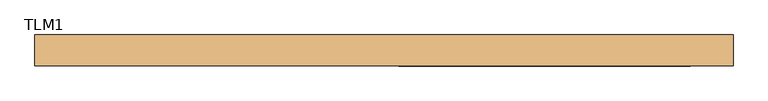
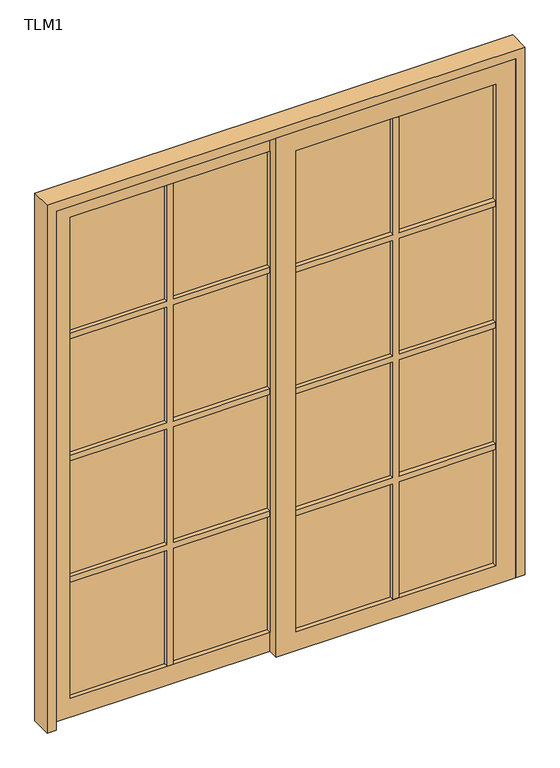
"""IFC4 building model written with IfcOpenShell, lengths in millimetres: door geometry, 双扇推拉门1 : TLM1."""

import ifcopenshell
import ifcopenshell.guid

model = None  # the IFC model being written
_history = None  # IfcOwnerHistory: only IFC2X3 demands one
_inside = {}  # id of a spatial element -> (the spatial element, [elements in it])
_under = {}  # id of a project, library or spatial element -> (it, [spatial elements below it])
_declared = {}  # id of a project -> (the project, [libraries it declares])
_typed = {}  # id of a type object -> (the type object, [elements of that type])
_made_of = {}  # id of a material, layer set ... -> (it, [elements and type objects made of it])


def new_model(schema):
    """Start an empty IFC model of exactly this schema.

    Asked for "IFC4X3", IfcOpenShell would pick the latest addendum, in which some entities
    have other attributes; the version numbers below select the first issue.
    IFC2X3 requires an IfcOwnerHistory on every rooted entity: one is made here for all.
    """
    global model, _history
    if schema == "IFC4X3":
        model = ifcopenshell.file(schema_version=(4, 3, 0, 0))
    else:
        model = ifcopenshell.file(schema=schema)
    _inside.clear()
    _under.clear()
    _declared.clear()
    _typed.clear()
    _made_of.clear()
    _history = None
    if model.schema == "IFC2X3":
        org = make("IfcOrganization", Name="unknown")
        user = make(
            "IfcPersonAndOrganization",
            ThePerson=make("IfcPerson", FamilyName="unknown"),
            TheOrganization=org,
        )
        app = make(
            "IfcApplication",
            ApplicationDeveloper=org,
            Version="unknown",
            ApplicationFullName="unknown",
            ApplicationIdentifier="unknown",
        )
        _history = make(
            "IfcOwnerHistory",
            OwningUser=user,
            OwningApplication=app,
            ChangeAction="ADDED",
            CreationDate=0,
        )
    return model


def make(cls, **values):
    """One entity of the class cls with the attributes given. An attribute that is None is left unset."""
    return model.create_entity(
        cls, **{name: value for name, value in values.items() if value is not None}
    )


def rooted(cls, **values):
    """An entity with a GlobalId (a new one), such as an element, a storey or a relation."""
    return make(cls, GlobalId=ifcopenshell.guid.new(), OwnerHistory=_history, **values)


def si_unit(unit_type, name, prefix=None):
    """IfcSIUnit, for example si_unit("LENGTHUNIT", "METRE", prefix="MILLI")."""
    return make("IfcSIUnit", UnitType=unit_type, Prefix=prefix, Name=name)


def assignment(units):
    """IfcUnitAssignment: the units of a project."""
    return None if units is None else make("IfcUnitAssignment", Units=units)


def point(xyz):
    """IfcCartesianPoint."""
    return None if xyz is None else make("IfcCartesianPoint", Coordinates=xyz)


def direction(xyz):
    """IfcDirection."""
    return None if xyz is None else make("IfcDirection", DirectionRatios=xyz)


def frame(location, z_axis=None, x_axis=None):
    """IfcAxis2Placement3D, a coordinate frame: its origin and axes. An axis left out is left unset."""
    return make(
        "IfcAxis2Placement3D",
        Location=point(location),
        Axis=direction(z_axis),
        RefDirection=direction(x_axis),
    )


def origin():
    """The frame at (0, 0, 0) with its axes left unset."""
    return frame((0.0, 0.0, 0.0))


def place(relative_to, where):
    """IfcLocalPlacement: puts the frame where relative to a parent placement (None: the world)."""
    return make(
        "IfcLocalPlacement", PlacementRelTo=relative_to, RelativePlacement=where
    )


def context(
    kind, dimensions, precision=None, world=None, true_north=None, identifier=None
):
    """IfcGeometricRepresentationContext, for example the 3D "Model" context."""
    return make(
        "IfcGeometricRepresentationContext",
        ContextIdentifier=identifier,
        ContextType=kind,
        CoordinateSpaceDimension=dimensions,
        Precision=precision,
        WorldCoordinateSystem=world,
        TrueNorth=true_north,
    )


def project(units=None, contexts=None):
    """IfcProject with its units and contexts."""
    return rooted(
        "IfcProject",
        Name="project",
        RepresentationContexts=contexts,
        UnitsInContext=assignment(units),
    )


def spatial(cls, under=None, at=None, **own):
    """A site, building, storey or space (cls), placed at a placement, below another one or the project."""
    s = rooted(cls, ObjectPlacement=at, **own)
    if under is not None:
        _under.setdefault(under.id(), (under, []))[1].append(s)
    return s


def polyline(points):
    """IfcPolyline through the points."""
    return make("IfcPolyline", Points=[point(p) for p in points])


def outline(outer, holes=None, kind="AREA"):
    """IfcArbitraryClosedProfileDef: a profile drawn as a closed curve; with holes, ...WithVoids."""
    if holes is None:
        return make("IfcArbitraryClosedProfileDef", ProfileType=kind, OuterCurve=outer)
    return make(
        "IfcArbitraryProfileDefWithVoids",
        ProfileType=kind,
        OuterCurve=outer,
        InnerCurves=holes,
    )


def extrude(swept, where, along, depth):
    """IfcExtrudedAreaSolid: the profile swept, set in the frame where, extruded along a direction by depth."""
    return make(
        "IfcExtrudedAreaSolid",
        SweptArea=swept,
        Position=where,
        ExtrudedDirection=direction(along),
        Depth=depth,
    )


def shape(context_of_items, identifier, shape_type, items):
    """IfcShapeRepresentation: the items that make up one representation, for example the "Body"."""
    return make(
        "IfcShapeRepresentation",
        ContextOfItems=context_of_items,
        RepresentationIdentifier=identifier,
        RepresentationType=shape_type,
        Items=items,
    )


def source(mapping_origin, context_of_items, identifier, shape_type, items):
    """IfcRepresentationMap: a shape defined once, which mapped items show again and again."""
    return make(
        "IfcRepresentationMap",
        MappingOrigin=mapping_origin,
        MappedRepresentation=shape(context_of_items, identifier, shape_type, items),
    )


def transform(
    local_origin,
    x_axis=None,
    y_axis=None,
    z_axis=None,
    scale=None,
    scale2=None,
    scale3=None,
    uniform=True,
):
    """IfcCartesianTransformationOperator3D, or its non-uniform kind. x_axis, y_axis, z_axis: its Axis1, 2, 3."""
    if uniform:
        return make(
            "IfcCartesianTransformationOperator3D",
            Axis1=direction(x_axis),
            Axis2=direction(y_axis),
            LocalOrigin=point(local_origin),
            Scale=scale,
            Axis3=direction(z_axis),
        )
    return make(
        "IfcCartesianTransformationOperator3DnonUniform",
        Axis1=direction(x_axis),
        Axis2=direction(y_axis),
        LocalOrigin=point(local_origin),
        Scale=scale,
        Axis3=direction(z_axis),
        Scale2=scale2,
        Scale3=scale3,
    )


def mapped(mapping_source, mapping_target):
    """IfcMappedItem: shows the shape of a source again, moved by a transform."""
    return make(
        "IfcMappedItem", MappingSource=mapping_source, MappingTarget=mapping_target
    )


def made_of(thing, what):
    """Note that an element or type object is made of a material, layer set ...; save() writes the relation."""
    if what is not None:
        _made_of.setdefault(what.id(), (what, []))[1].append(thing)
    return thing


def element(
    cls,
    number,
    at=None,
    inside=None,
    cuts=None,
    type_object=None,
    material=None,
    context=None,
    identifier="Body",
    shape_type=None,
    held_by="IfcProductDefinitionShape",
    body=None,
    shapes=None,
    **own,
):
    """One element of the class cls, such as IfcWall. Its Tag is "e" and its number.

    at: its placement. inside: the storey or other place that contains it. cuts: it is an
    opening in that element (IfcRelVoidsElement). A single representation is given by context,
    identifier, shape_type and body (its items); several are given by shapes. held_by: the class
    of the entity that holds the representations. save() writes the other relations.
    """
    e = rooted(cls, Tag="e%d" % number, ObjectPlacement=at, **own)
    if body is not None:
        shapes = [shape(context, identifier, shape_type, body)]
    if shapes is not None:
        e.Representation = make(held_by, Representations=shapes)
    if inside is not None:
        _inside.setdefault(inside.id(), (inside, []))[1].append(e)
    if cuts is not None:
        rooted(
            "IfcRelVoidsElement", RelatingBuildingElement=cuts, RelatedOpeningElement=e
        )
    if type_object is not None:
        _typed.setdefault(type_object.id(), (type_object, []))[1].append(e)
    return made_of(e, material)


def aggregate(whole, parts):
    """IfcRelAggregates: a whole, such as a stair, and the parts it consists of."""
    return rooted("IfcRelAggregates", RelatingObject=whole, RelatedObjects=parts)


def save(model, path):
    """Write the relations noted so far, then the file.

    IfcRelAggregates (storeys below a building ...), IfcRelContainedInSpatialStructure (elements
    in a storey), IfcRelDefinesByType, IfcRelAssociatesMaterial and IfcRelDeclares: one each for
    every whole, place, type object, material and project.
    """
    for whole, parts in _under.values():
        aggregate(whole, parts)
    for where, things in _inside.values():
        rooted(
            "IfcRelContainedInSpatialStructure",
            RelatedElements=things,
            RelatingStructure=where,
        )
    for kind, things in _typed.values():
        rooted("IfcRelDefinesByType", RelatedObjects=things, RelatingType=kind)
    for what, things in _made_of.values():
        rooted("IfcRelAssociatesMaterial", RelatedObjects=things, RelatingMaterial=what)
    for by, libraries in _declared.values():
        rooted("IfcRelDeclares", RelatingContext=by, RelatedDefinitions=libraries)
    model.write(path)


def tlm1_f57afe13(model_context):
    return source(origin(), model_context, "Body", "SweptSolid", [
        extrude(outline(polyline([(2065.0, -865.0), (0.0, -865.0), (0.0, 37.5), (2065.0, 37.5), (2065.0, -865.0)]), holes=[polyline([(1990.0, -790.0), (1990.0, -37.5), (75.0, -37.5), (75.0, -790.0), (1990.0, -790.0)])]), frame((0.0, 0.0, 0.0), z_axis=(0.0, 1.0, 0.0), x_axis=(0.0, 0.0, 1.0)), (0.0, 0.0, 1.0), 40.0),
        extrude(outline(polyline([(0.0, 865.0), (2065.0, 865.0), (2065.0, -37.5), (0.0, -37.5), (0.0, 865.0)]), holes=[polyline([(1990.0, 790.0), (75.0, 790.0), (75.0, 37.5), (1990.0, 37.5), (1990.0, 790.0)])]), frame((0.0, -40.0, 0.0), z_axis=(0.0, 1.0, 0.0), x_axis=(0.0, 0.0, 1.0)), (0.0, 0.0, 1.0), 40.0),
        extrude(outline(polyline([(790.0, -23.0), (424.75, -23.0), (424.75, -17.0), (790.0, -17.0), (790.0, -23.0)])), frame((0.0, 0.0, 1527.75), z_axis=(0.0, 0.0, 1.0), x_axis=(1.0, 0.0, 0.0)), (0.0, 0.0, 1.0), 462.25),
        extrude(outline(polyline([(402.75, -23.0), (37.5, -23.0), (37.5, -17.0), (402.75, -17.0), (402.75, -23.0)])), frame((0.0, 0.0, 1527.75), z_axis=(0.0, 0.0, 1.0), x_axis=(1.0, 0.0, 0.0)), (0.0, 0.0, 1.0), 462.25),
        extrude(outline(polyline([(790.0, -23.0), (424.75, -23.0), (424.75, -17.0), (790.0, -17.0), (790.0, -23.0)])), frame((0.0, 0.0, 1043.5), z_axis=(0.0, 0.0, 1.0), x_axis=(1.0, 0.0, 0.0)), (0.0, 0.0, 1.0), 462.25),
        extrude(outline(polyline([(402.75, -23.0), (37.5, -23.0), (37.5, -17.0), (402.75, -17.0), (402.75, -23.0)])), frame((0.0, 0.0, 1043.5), z_axis=(0.0, 0.0, 1.0), x_axis=(1.0, 0.0, 0.0)), (0.0, 0.0, 1.0), 462.25),
        extrude(outline(polyline([(790.0, -23.0), (424.75, -23.0), (424.75, -17.0), (790.0, -17.0), (790.0, -23.0)])), frame((0.0, 0.0, 559.25), z_axis=(0.0, 0.0, 1.0), x_axis=(1.0, 0.0, 0.0)), (0.0, 0.0, 1.0), 462.25),
        extrude(outline(polyline([(402.75, -23.0), (37.5, -23.0), (37.5, -17.0), (402.75, -17.0), (402.75, -23.0)])), frame((0.0, 0.0, 559.25), z_axis=(0.0, 0.0, 1.0), x_axis=(1.0, 0.0, 0.0)), (0.0, 0.0, 1.0), 462.25),
        extrude(outline(polyline([(790.0, -23.0), (424.75, -23.0), (424.75, -17.0), (790.0, -17.0), (790.0, -23.0)])), frame((0.0, 0.0, 75.0), z_axis=(0.0, 0.0, 1.0), x_axis=(1.0, 0.0, 0.0)), (0.0, 0.0, 1.0), 462.25),
        extrude(outline(polyline([(402.75, -23.0), (37.5, -23.0), (37.5, -17.0), (402.75, -17.0), (402.75, -23.0)])), frame((0.0, 0.0, 75.0), z_axis=(0.0, 0.0, 1.0), x_axis=(1.0, 0.0, 0.0)), (0.0, 0.0, 1.0), 462.25),
        extrude(outline(polyline([(-402.75, 23.0), (-37.5, 23.0), (-37.5, 17.0), (-402.75, 17.0), (-402.75, 23.0)])), frame((0.0, 0.0, 1527.75), z_axis=(0.0, 0.0, 1.0), x_axis=(1.0, 0.0, 0.0)), (0.0, 0.0, 1.0), 462.25),
        extrude(outline(polyline([(-790.0, 23.0), (-424.75, 23.0), (-424.75, 17.0), (-790.0, 17.0), (-790.0, 23.0)])), frame((0.0, 0.0, 1527.75), z_axis=(0.0, 0.0, 1.0), x_axis=(1.0, 0.0, 0.0)), (0.0, 0.0, 1.0), 462.25),
        extrude(outline(polyline([(-402.75, 23.0), (-37.5, 23.0), (-37.5, 17.0), (-402.75, 17.0), (-402.75, 23.0)])), frame((0.0, 0.0, 1043.5), z_axis=(0.0, 0.0, 1.0), x_axis=(1.0, 0.0, 0.0)), (0.0, 0.0, 1.0), 462.25),
        extrude(outline(polyline([(-790.0, 23.0), (-424.75, 23.0), (-424.75, 17.0), (-790.0, 17.0), (-790.0, 23.0)])), frame((0.0, 0.0, 1043.5), z_axis=(0.0, 0.0, 1.0), x_axis=(1.0, 0.0, 0.0)), (0.0, 0.0, 1.0), 462.25),
        extrude(outline(polyline([(-402.75, 23.0), (-37.5, 23.0), (-37.5, 17.0), (-402.75, 17.0), (-402.75, 23.0)])), frame((0.0, 0.0, 559.25), z_axis=(0.0, 0.0, 1.0), x_axis=(1.0, 0.0, 0.0)), (0.0, 0.0, 1.0), 462.25),
        extrude(outline(polyline([(-790.0, 23.0), (-424.75, 23.0), (-424.75, 17.0), (-790.0, 17.0), (-790.0, 23.0)])), frame((0.0, 0.0, 559.25), z_axis=(0.0, 0.0, 1.0), x_axis=(1.0, 0.0, 0.0)), (0.0, 0.0, 1.0), 462.25),
        extrude(outline(polyline([(-402.75, 23.0), (-37.5, 23.0), (-37.5, 17.0), (-402.75, 17.0), (-402.75, 23.0)])), frame((0.0, 0.0, 75.0), z_axis=(0.0, 0.0, 1.0), x_axis=(1.0, 0.0, 0.0)), (0.0, 0.0, 1.0), 462.25),
        extrude(outline(polyline([(-790.0, 23.0), (-424.75, 23.0), (-424.75, 17.0), (-790.0, 17.0), (-790.0, 23.0)])), frame((0.0, 0.0, 75.0), z_axis=(0.0, 0.0, 1.0), x_axis=(1.0, 0.0, 0.0)), (0.0, 0.0, 1.0), 462.25),
        extrude(outline(polyline([(1527.75, 424.75), (1990.0, 424.75), (1990.0, 402.75), (1527.75, 402.75), (1527.75, 37.5), (1505.75, 37.5), (1505.75, 402.75), (1043.5, 402.75), (1043.5, 37.5), (1021.5, 37.5), (1021.5, 402.75), (559.25, 402.75), (559.25, 37.5), (537.25, 37.5), (537.25, 402.75), (75.0, 402.75), (75.0, 424.75), (537.25, 424.75), (537.25, 790.0), (559.25, 790.0), (559.25, 424.75), (1021.5, 424.75), (1021.5, 790.0), (1043.5, 790.0), (1043.5, 424.75), (1505.75, 424.75), (1505.75, 790.0), (1527.75, 790.0), (1527.75, 424.75)])), frame((0.0, -40.0, 0.0), z_axis=(0.0, 1.0, 0.0), x_axis=(0.0, 0.0, 1.0)), (0.0, 0.0, 1.0), 40.0),
        extrude(outline(polyline([(1527.75, -402.75), (1990.0, -402.75), (1990.0, -424.75), (1527.75, -424.75), (1527.75, -790.0), (1505.75, -790.0), (1505.75, -424.75), (1043.5, -424.75), (1043.5, -790.0), (1021.5, -790.0), (1021.5, -424.75), (559.25, -424.75), (559.25, -790.0), (537.25, -790.0), (537.25, -424.75), (75.0, -424.75), (75.0, -402.75), (537.25, -402.75), (537.25, -37.5), (559.25, -37.5), (559.25, -402.75), (1021.5, -402.75), (1021.5, -37.5), (1043.5, -37.5), (1043.5, -402.75), (1505.75, -402.75), (1505.75, -37.5), (1527.75, -37.5), (1527.75, -402.75)])), frame((0.0, 0.0, 0.0), z_axis=(0.0, 1.0, 0.0), x_axis=(0.0, 0.0, 1.0)), (0.0, 0.0, 1.0), 40.0),
        extrude(outline(polyline([(0.0, 865.0), (0.0, 900.0), (2100.0, 900.0), (2100.0, -900.0), (0.0, -900.0), (0.0, -865.0), (2065.0, -865.0), (2065.0, 865.0), (0.0, 865.0)])), frame((0.0, -40.0, 0.0), z_axis=(0.0, 1.0, 0.0), x_axis=(0.0, 0.0, 1.0)), (0.0, 0.0, 1.0), 80.0),
    ])


if __name__ == "__main__":
    model = new_model("IFC4")
    model_context = context("Model", 3, world=origin())
    ifc_project = project(units=[si_unit("LENGTHUNIT", "METRE", prefix="MILLI")], contexts=[model_context])
    site = spatial("IfcSite", under=ifc_project)
    building = spatial("IfcBuilding", under=site)
    placement = place(None, origin())
    tlm1_shape = tlm1_f57afe13(model_context)
    element("IfcDoor", 1, ObjectType="双扇推拉门1 : TLM1", at=placement, inside=building, context=model_context, shape_type="MappedRepresentation", body=[
        mapped(tlm1_shape, transform((0.0, 0.0, 0.0), x_axis=(1.0, 0.0, 0.0), y_axis=(0.0, 1.0, 0.0), z_axis=(0.0, 0.0, 1.0))),
    ])
    save(model, "model.ifc")
